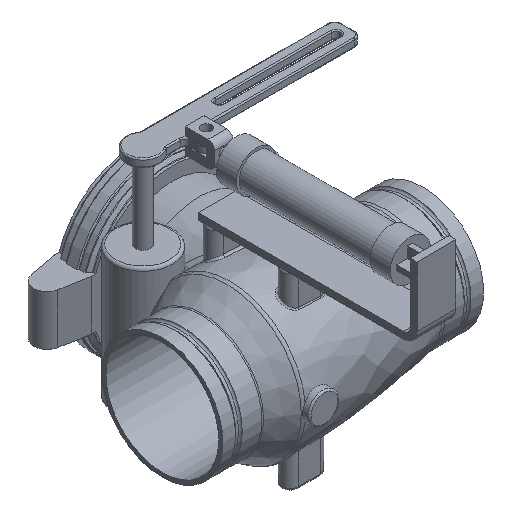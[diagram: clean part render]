
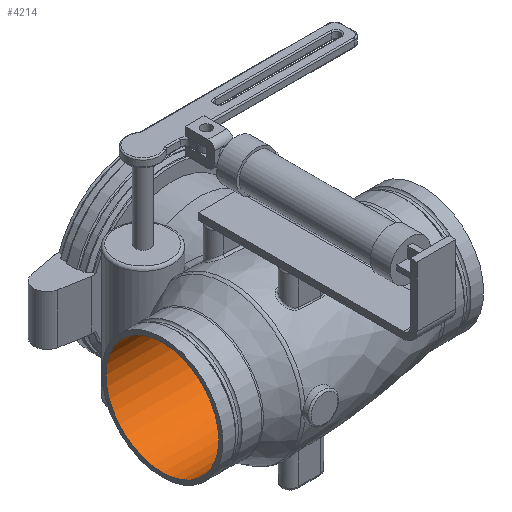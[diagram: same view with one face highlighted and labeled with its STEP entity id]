
A CAD part, isometric view. The second image highlights one B-rep face of the part: STEP entity #4214.
In plain terms, the highlighted cylindrical face has radius 107.061 mm (diameter 214.122 mm), a full revolution.
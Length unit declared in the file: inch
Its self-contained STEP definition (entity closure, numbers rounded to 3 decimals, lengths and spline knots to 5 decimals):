
#541=FACE_OUTER_BOUND('',#790,.T.);
#790=EDGE_LOOP('',(#3568,#3569,#3570,#3571,#3572,#3573));
#1031=LINE('',#8982,#1261);
#1261=VECTOR('',#5744,4.215);
#1480=CIRCLE('',#4648,4.215);
#1481=CIRCLE('',#4649,4.215);
#1482=CIRCLE('',#4650,4.215);
#1483=CIRCLE('',#4651,4.215);
#1865=VERTEX_POINT('',#8978);
#1866=VERTEX_POINT('',#8979);
#1867=VERTEX_POINT('',#8981);
#1868=VERTEX_POINT('',#8983);
#2446=EDGE_CURVE('',#1865,#1866,#1480,.T.);
#2447=EDGE_CURVE('',#1866,#1867,#1031,.T.);
#2448=EDGE_CURVE('',#1868,#1867,#1481,.T.);
#2449=EDGE_CURVE('',#1867,#1868,#1482,.T.);
#2450=EDGE_CURVE('',#1866,#1865,#1483,.T.);
#3568=ORIENTED_EDGE('',*,*,#2446,.T.);
#3569=ORIENTED_EDGE('',*,*,#2447,.T.);
#3570=ORIENTED_EDGE('',*,*,#2448,.F.);
#3571=ORIENTED_EDGE('',*,*,#2449,.F.);
#3572=ORIENTED_EDGE('',*,*,#2447,.F.);
#3573=ORIENTED_EDGE('',*,*,#2450,.T.);
#3764=CYLINDRICAL_SURFACE('',#4647,4.215);
#4214=ADVANCED_FACE('',(#541),#3764,.F.);
#4647=AXIS2_PLACEMENT_3D('',#8977,#5740,#5741);
#4648=AXIS2_PLACEMENT_3D('',#8980,#5742,#5743);
#4649=AXIS2_PLACEMENT_3D('',#8984,#5745,#5746);
#4650=AXIS2_PLACEMENT_3D('',#8985,#5747,#5748);
#4651=AXIS2_PLACEMENT_3D('',#8986,#5749,#5750);
#5740=DIRECTION('center_axis',(-1.,0.,0.));
#5741=DIRECTION('ref_axis',(0.,1.,0.));
#5742=DIRECTION('center_axis',(-1.,0.,0.));
#5743=DIRECTION('ref_axis',(0.,0.,1.));
#5744=DIRECTION('',(1.,0.,0.));
#5745=DIRECTION('center_axis',(-1.,0.,0.));
#5746=DIRECTION('ref_axis',(0.,0.,1.));
#5747=DIRECTION('center_axis',(-1.,0.,0.));
#5748=DIRECTION('ref_axis',(0.,0.,1.));
#5749=DIRECTION('center_axis',(-1.,0.,0.));
#5750=DIRECTION('ref_axis',(0.,0.,1.));
#8977=CARTESIAN_POINT('Origin',(-0.25,0.,0.));
#8978=CARTESIAN_POINT('',(-10.,4.215,0.));
#8979=CARTESIAN_POINT('',(-10.,-4.215,0.));
#8980=CARTESIAN_POINT('Origin',(-10.,0.,0.));
#8981=CARTESIAN_POINT('',(9.5,-4.215,0.));
#8982=CARTESIAN_POINT('',(-0.25,-4.215,0.));
#8983=CARTESIAN_POINT('',(9.5,4.215,0.));
#8984=CARTESIAN_POINT('Origin',(9.5,0.,0.));
#8985=CARTESIAN_POINT('Origin',(9.5,0.,0.));
#8986=CARTESIAN_POINT('Origin',(-10.,0.,0.));
